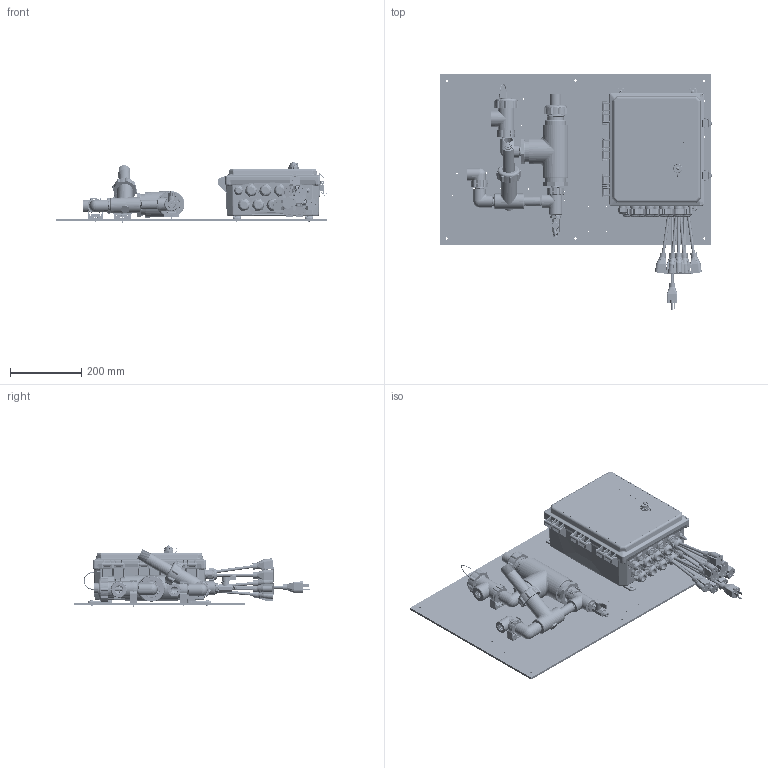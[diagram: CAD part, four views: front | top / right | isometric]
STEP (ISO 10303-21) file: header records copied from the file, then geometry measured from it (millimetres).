
FILE_DESCRIPTION (( 'STEP AP203' ), '1' );
FILE_NAME ('W900-CT-PCFNNN.STEP', '2019-04-22T21:10:06', ( '' ), ( '' ), 'SwSTEP 2.0', 'SolidWorks 2019', '' );
FILE_SCHEMA (( 'CONFIG_CONTROL_DESIGN' ));
Length unit declared in the file: inch
Products named in the file (53): IMS0012; W900 Shell; SHELL-102881; SHELL-WEL-XXX-NN; IMS0005; SHELL-103134; 103860_Cord1; SHELL-103515; SHELL-102961_30075T212; SHELL-102882; SHELL-103778; SHELL-191020-XX; SHELL-103283-FT; SHELL-102817-01; 103861; SHELL-191638; SHELL-103886_98273A320; SHELL-102919; SHELL-191652; SHELL-102586; IMS0035_91500A537; SHELL-191157wo; ISA0006; SHELL-102917; 102961ws; SHELL-102594; W900-CT-PCFNNN Manifold Only; Flow Switch Assembly; SHELL-103893_91772A829; SHELL-102061; SHELL-102884; SHELL-102377_30075T211; SHELL-102880; W900-CT-PCFNNN; SHELL-103425_4882K14; 102907; SHELL-102381_4880K345; SHELL-102884wo; SHELL-102377ws; SHELL-102986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
Assembly tree (92 placements, depth 6):
  W900-CT-PCFNNN
    SHELL-102938
    W900 Shell
      W900 Shell
      SHELL-103283-FT  x4
      IMS0035_91500A537  x4
      SHELL-103893_91772A829  x4
      ISA0006
        102907
        102903_102903
        102906
        103860_Cord1  x3
        103861
      ISA0006
        102907
        102903_102903
        102906
        103860_Cord1  x3
        103861
      ISA0006
        102907
        102903_102903
        102906
        103860_Cord1  x3
        103861
      SHELL-103859_Cord1
    102961ws
      SHELL-102961_30075T212
      SHELL-103886_98273A320
    SHELL-102377ws
      SHELL-103886_98273A320
      SHELL-102377_30075T211
    SHELL-102377ws
      SHELL-103886_98273A320
      SHELL-102377_30075T211
    W900-CT-PCFNNN Manifold Only
      Flow Switch Assembly
        SHELL-102881
        SHELL-191020-XX
          SHELL-102882
          SHELL-102919
          SHELL-102594
          SHELL-190996
            SHELL-102880
            SHELL-102986  x2
          IMS0005
        SHELL-102586
      SHELL-103425_4882K14  x5
      SHELL-102423  x3
      SHELL-191157wo
        SHELL-103133
        SHELL-103134  x2
        SHELL-102817-01
        SHELL-102594
      SHELL-102061
      SHELL-102381_4880K345
      SHELL-103515
        IMS0013
        IMS0012
      SHELL-191638
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Bounding box: 764.69 x 665.28 x 171.79 mm (x, y, z)
Volume: 5818034.6 mm3; surface area: 2400284.4 mm2
Topology: 124 solids, 124 shells, 18021 faces, 47362 edges, 29656 vertices
Faces by surface type: plane 7530, cylinder 5358, bspline 3300, cone 1157, torus 543, sphere 133
Entity records: 671662 total; most frequent: CARTESIAN_POINT 345963, ORIENTED_EDGE 76118, DIRECTION 53690, EDGE_CURVE 38059, VERTEX_POINT 23915, AXIS2_PLACEMENT_3D 18612, VECTOR 16466, LINE 16466
